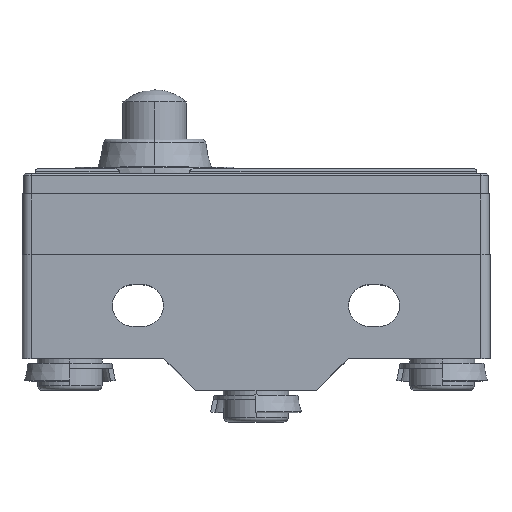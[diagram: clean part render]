
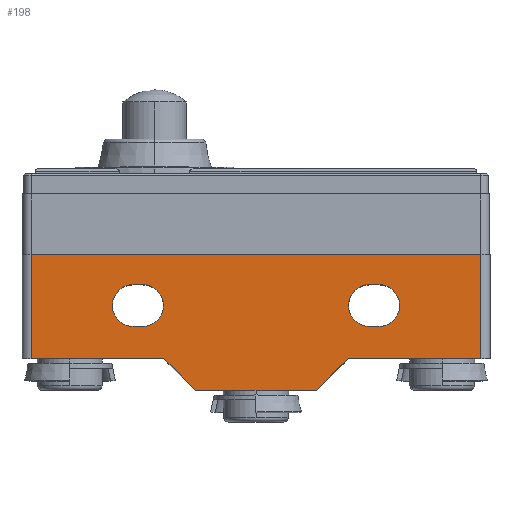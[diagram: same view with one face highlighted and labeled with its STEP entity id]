
A CAD part, top view. The second image highlights one B-rep face of the part: STEP entity #198.
In plain terms, the highlighted planar face has unit normal (0, 0, 1).
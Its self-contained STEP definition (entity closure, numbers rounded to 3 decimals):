
#89 = EDGE_CURVE ( 'NONE', #682, #663, #3824, .T. ) ;
#100 = EDGE_CURVE ( 'NONE', #728, #720, #3828, .T. ) ;
#198 = ADVANCED_FACE ( 'NONE', ( #3332, #3304, #3330 ), #4690, .F. ) ;
#335 = AXIS2_PLACEMENT_3D ( 'NONE', #4332, #4333, #4334 ) ;
#374 = AXIS2_PLACEMENT_3D ( 'NONE', #4360, #4367, #4368 ) ;
#558 = VERTEX_POINT ( 'NONE', #5021 ) ;
#559 = VERTEX_POINT ( 'NONE', #5022 ) ;
#560 = VERTEX_POINT ( 'NONE', #5023 ) ;
#563 = VERTEX_POINT ( 'NONE', #5026 ) ;
#570 = VERTEX_POINT ( 'NONE', #5033 ) ;
#576 = VERTEX_POINT ( 'NONE', #5039 ) ;
#607 = VERTEX_POINT ( 'NONE', #5070 ) ;
#610 = VERTEX_POINT ( 'NONE', #5073 ) ;
#631 = VERTEX_POINT ( 'NONE', #5094 ) ;
#663 = VERTEX_POINT ( 'NONE', #5126 ) ;
#680 = VERTEX_POINT ( 'NONE', #5143 ) ;
#682 = VERTEX_POINT ( 'NONE', #5145 ) ;
#704 = VERTEX_POINT ( 'NONE', #1136 ) ;
#720 = VERTEX_POINT ( 'NONE', #1152 ) ;
#728 = VERTEX_POINT ( 'NONE', #1160 ) ;
#734 = VERTEX_POINT ( 'NONE', #1166 ) ;
#749 = VERTEX_POINT ( 'NONE', #1181 ) ;
#785 = EDGE_LOOP ( 'NONE', ( #2324, #2326, #2325, #2327, #2328, #2329, #2330, #2331 ) ) ;
#789 = EDGE_LOOP ( 'NONE', ( #2319, #2321, #2320, #2322, #2323 ) ) ;
#808 = EDGE_LOOP ( 'NONE', ( #2314, #2316, #2315, #2317, #2318 ) ) ;
#1136 = CARTESIAN_POINT ( 'NONE',  ( 6.5, -11.9, 9. ) ) ;
#1152 = CARTESIAN_POINT ( 'NONE',  ( -12.2, -0.55, 9. ) ) ;
#1160 = CARTESIAN_POINT ( 'NONE',  ( -9.95, -2.8, 9. ) ) ;
#1166 = CARTESIAN_POINT ( 'NONE',  ( -6.5, -11.9, 9. ) ) ;
#1181 = CARTESIAN_POINT ( 'NONE',  ( -13.2, -5.05, 9. ) ) ;
#1300 = LINE ( 'NONE', #1301, #3293 ) ;
#1301 = CARTESIAN_POINT ( 'NONE',  ( 25.15, -8.5, 9. ) ) ;
#1302 = DIRECTION ( 'NONE',  ( 1., 0., 0. ) ) ;
#1347 = LINE ( 'NONE', #1348, #2913 ) ;
#1348 = CARTESIAN_POINT ( 'NONE',  ( 6.5, -11.9, 9. ) ) ;
#1349 = DIRECTION ( 'NONE',  ( 1., 0., 0. ) ) ;
#1554 = CARTESIAN_POINT ( 'NONE',  ( 12.2, -2.8, 9. ) ) ;
#1582 = DIRECTION ( 'NONE',  ( 0., 0., 1. ) ) ;
#1583 = DIRECTION ( 'NONE',  ( 1., 0., 0. ) ) ;
#1584 = CARTESIAN_POINT ( 'NONE',  ( 13.2, -2.8, 9. ) ) ;
#1585 = LINE ( 'NONE', #1586, #2870 ) ;
#1586 = CARTESIAN_POINT ( 'NONE',  ( 12.2, -5.05, 9. ) ) ;
#1587 = DIRECTION ( 'NONE',  ( 1., 0., 0. ) ) ;
#1588 = LINE ( 'NONE', #1589, #3250 ) ;
#1589 = CARTESIAN_POINT ( 'NONE',  ( 12.2, -0.55, 9. ) ) ;
#1590 = DIRECTION ( 'NONE',  ( -1., 0., 0. ) ) ;
#1591 = DIRECTION ( 'NONE',  ( 0., 0., 1. ) ) ;
#1592 = DIRECTION ( 'NONE',  ( 1., 0., 0. ) ) ;
#1593 = CARTESIAN_POINT ( 'NONE',  ( -13.2, -2.8, 9. ) ) ;
#1594 = LINE ( 'NONE', #1595, #3251 ) ;
#1595 = CARTESIAN_POINT ( 'NONE',  ( -13.2, -5.05, 9. ) ) ;
#1596 = DIRECTION ( 'NONE',  ( 1., 0., 0. ) ) ;
#1597 = DIRECTION ( 'NONE',  ( 0., 0., 1. ) ) ;
#1598 = DIRECTION ( 'NONE',  ( 1., 0., 0. ) ) ;
#1599 = CARTESIAN_POINT ( 'NONE',  ( -12.2, -2.8, 9. ) ) ;
#1600 = LINE ( 'NONE', #1601, #3259 ) ;
#1601 = CARTESIAN_POINT ( 'NONE',  ( -13.2, -0.55, 9. ) ) ;
#1602 = DIRECTION ( 'NONE',  ( -1., 0., 0. ) ) ;
#1603 = DIRECTION ( 'NONE',  ( 0., 0., 1. ) ) ;
#1604 = DIRECTION ( 'NONE',  ( 1., 0., 0. ) ) ;
#1606 = LINE ( 'NONE', #1607, #3257 ) ;
#1607 = CARTESIAN_POINT ( 'NONE',  ( -24.15, 2.7, 9. ) ) ;
#1608 = DIRECTION ( 'NONE',  ( 1., 0., 0. ) ) ;
#1609 = LINE ( 'NONE', #1610, #3254 ) ;
#1610 = CARTESIAN_POINT ( 'NONE',  ( -24.15, 0., 9. ) ) ;
#1611 = DIRECTION ( 'NONE',  ( 0., -1., 0. ) ) ;
#1612 = LINE ( 'NONE', #1613, #3253 ) ;
#1613 = CARTESIAN_POINT ( 'NONE',  ( -9.9, -8.5, 9. ) ) ;
#1614 = DIRECTION ( 'NONE',  ( 1., 0., 0. ) ) ;
#1615 = LINE ( 'NONE', #1616, #3256 ) ;
#1616 = CARTESIAN_POINT ( 'NONE',  ( -6.5, -11.9, 9. ) ) ;
#1617 = DIRECTION ( 'NONE',  ( 0.707, -0.707, 0. ) ) ;
#1618 = LINE ( 'NONE', #1619, #3255 ) ;
#1619 = CARTESIAN_POINT ( 'NONE',  ( 9.9, -8.5, 9. ) ) ;
#1620 = DIRECTION ( 'NONE',  ( 0.707, 0.707, 0. ) ) ;
#1621 = LINE ( 'NONE', #1622, #3260 ) ;
#1622 = CARTESIAN_POINT ( 'NONE',  ( 24.15, 0., 9. ) ) ;
#1623 = DIRECTION ( 'NONE',  ( 0., 1., 0. ) ) ;
#2209 = CARTESIAN_POINT ( 'NONE',  ( 12.2, -5.05, 9. ) ) ;
#2314 = ORIENTED_EDGE ( 'NONE', *, *, #3608, .F. ) ;
#2315 = ORIENTED_EDGE ( 'NONE', *, *, #3609, .F. ) ;
#2316 = ORIENTED_EDGE ( 'NONE', *, *, #3607, .F. ) ;
#2317 = ORIENTED_EDGE ( 'NONE', *, *, #89, .F. ) ;
#2318 = ORIENTED_EDGE ( 'NONE', *, *, #3610, .F. ) ;
#2319 = ORIENTED_EDGE ( 'NONE', *, *, #3611, .F. ) ;
#2320 = ORIENTED_EDGE ( 'NONE', *, *, #3613, .F. ) ;
#2321 = ORIENTED_EDGE ( 'NONE', *, *, #3612, .F. ) ;
#2322 = ORIENTED_EDGE ( 'NONE', *, *, #100, .F. ) ;
#2323 = ORIENTED_EDGE ( 'NONE', *, *, #3614, .F. ) ;
#2324 = ORIENTED_EDGE ( 'NONE', *, *, #3615, .F. ) ;
#2325 = ORIENTED_EDGE ( 'NONE', *, *, #3617, .T. ) ;
#2326 = ORIENTED_EDGE ( 'NONE', *, *, #3616, .T. ) ;
#2327 = ORIENTED_EDGE ( 'NONE', *, *, #3618, .T. ) ;
#2328 = ORIENTED_EDGE ( 'NONE', *, *, #3531, .T. ) ;
#2329 = ORIENTED_EDGE ( 'NONE', *, *, #3619, .T. ) ;
#2330 = ORIENTED_EDGE ( 'NONE', *, *, #3516, .T. ) ;
#2331 = ORIENTED_EDGE ( 'NONE', *, *, #3620, .T. ) ;
#2865 = AXIS2_PLACEMENT_3D ( 'NONE', #1554, #1582, #1583 ) ;
#2869 = AXIS2_PLACEMENT_3D ( 'NONE', #1584, #1591, #1592 ) ;
#2870 = VECTOR ( 'NONE', #1587, 1000. ) ;
#2913 = VECTOR ( 'NONE', #1349, 1000. ) ;
#3247 = AXIS2_PLACEMENT_3D ( 'NONE', #1593, #1597, #1598 ) ;
#3248 = AXIS2_PLACEMENT_3D ( 'NONE', #1599, #1603, #1604 ) ;
#3250 = VECTOR ( 'NONE', #1590, 1000. ) ;
#3251 = VECTOR ( 'NONE', #1596, 1000. ) ;
#3253 = VECTOR ( 'NONE', #1614, 1000. ) ;
#3254 = VECTOR ( 'NONE', #1611, 1000. ) ;
#3255 = VECTOR ( 'NONE', #1620, 1000. ) ;
#3256 = VECTOR ( 'NONE', #1617, 1000. ) ;
#3257 = VECTOR ( 'NONE', #1608, 1000. ) ;
#3259 = VECTOR ( 'NONE', #1602, 1000. ) ;
#3260 = VECTOR ( 'NONE', #1623, 1000. ) ;
#3293 = VECTOR ( 'NONE', #1302, 1000. ) ;
#3304 = FACE_BOUND ( 'NONE', #789, .T. ) ;
#3330 = FACE_OUTER_BOUND ( 'NONE', #785, .T. ) ;
#3332 = FACE_BOUND ( 'NONE', #808, .T. ) ;
#3358 = AXIS2_PLACEMENT_3D ( 'NONE', #4691, #4692, #4693 ) ;
#3516 = EDGE_CURVE ( 'NONE', #570, #680, #1300, .T. ) ;
#3531 = EDGE_CURVE ( 'NONE', #734, #704, #1347, .T. ) ;
#3607 = EDGE_CURVE ( 'NONE', #576, #5295, #3928, .T. ) ;
#3608 = EDGE_CURVE ( 'NONE', #5295, #631, #1585, .T. ) ;
#3609 = EDGE_CURVE ( 'NONE', #663, #576, #1588, .T. ) ;
#3610 = EDGE_CURVE ( 'NONE', #631, #682, #3929, .T. ) ;
#3611 = EDGE_CURVE ( 'NONE', #749, #563, #1594, .T. ) ;
#3612 = EDGE_CURVE ( 'NONE', #558, #749, #3930, .T. ) ;
#3613 = EDGE_CURVE ( 'NONE', #720, #558, #1600, .T. ) ;
#3614 = EDGE_CURVE ( 'NONE', #563, #728, #3931, .T. ) ;
#3615 = EDGE_CURVE ( 'NONE', #559, #610, #1606, .T. ) ;
#3616 = EDGE_CURVE ( 'NONE', #559, #607, #1609, .T. ) ;
#3617 = EDGE_CURVE ( 'NONE', #607, #560, #1612, .T. ) ;
#3618 = EDGE_CURVE ( 'NONE', #560, #734, #1615, .T. ) ;
#3619 = EDGE_CURVE ( 'NONE', #704, #570, #1618, .T. ) ;
#3620 = EDGE_CURVE ( 'NONE', #680, #610, #1621, .T. ) ;
#3824 = CIRCLE ( 'NONE', #335, 2.25 ) ;
#3828 = CIRCLE ( 'NONE', #374, 2.25 ) ;
#3928 = CIRCLE ( 'NONE', #2865, 2.25 ) ;
#3929 = CIRCLE ( 'NONE', #2869, 2.25 ) ;
#3930 = CIRCLE ( 'NONE', #3247, 2.25 ) ;
#3931 = CIRCLE ( 'NONE', #3248, 2.25 ) ;
#4332 = CARTESIAN_POINT ( 'NONE',  ( 13.2, -2.8, 9. ) ) ;
#4333 = DIRECTION ( 'NONE',  ( 0., 0., 1. ) ) ;
#4334 = DIRECTION ( 'NONE',  ( 1., 0., 0. ) ) ;
#4360 = CARTESIAN_POINT ( 'NONE',  ( -12.2, -2.8, 9. ) ) ;
#4367 = DIRECTION ( 'NONE',  ( 0., 0., 1. ) ) ;
#4368 = DIRECTION ( 'NONE',  ( 1., 0., 0. ) ) ;
#4690 = PLANE ( 'NONE',  #3358 ) ;
#4691 = CARTESIAN_POINT ( 'NONE',  ( 0., 0., 9. ) ) ;
#4692 = DIRECTION ( 'NONE',  ( 0., 0., -1. ) ) ;
#4693 = DIRECTION ( 'NONE',  ( -1., 0., 0. ) ) ;
#5021 = CARTESIAN_POINT ( 'NONE',  ( -13.2, -0.55, 9. ) ) ;
#5022 = CARTESIAN_POINT ( 'NONE',  ( -24.15, 2.7, 9. ) ) ;
#5023 = CARTESIAN_POINT ( 'NONE',  ( -9.9, -8.5, 9. ) ) ;
#5026 = CARTESIAN_POINT ( 'NONE',  ( -12.2, -5.05, 9. ) ) ;
#5033 = CARTESIAN_POINT ( 'NONE',  ( 9.9, -8.5, 9. ) ) ;
#5039 = CARTESIAN_POINT ( 'NONE',  ( 12.2, -0.55, 9. ) ) ;
#5070 = CARTESIAN_POINT ( 'NONE',  ( -24.15, -8.5, 9. ) ) ;
#5073 = CARTESIAN_POINT ( 'NONE',  ( 24.15, 2.7, 9. ) ) ;
#5094 = CARTESIAN_POINT ( 'NONE',  ( 13.2, -5.05, 9. ) ) ;
#5126 = CARTESIAN_POINT ( 'NONE',  ( 13.2, -0.55, 9. ) ) ;
#5143 = CARTESIAN_POINT ( 'NONE',  ( 24.15, -8.5, 9. ) ) ;
#5145 = CARTESIAN_POINT ( 'NONE',  ( 15.45, -2.8, 9. ) ) ;
#5295 = VERTEX_POINT ( 'NONE', #2209 ) ;
